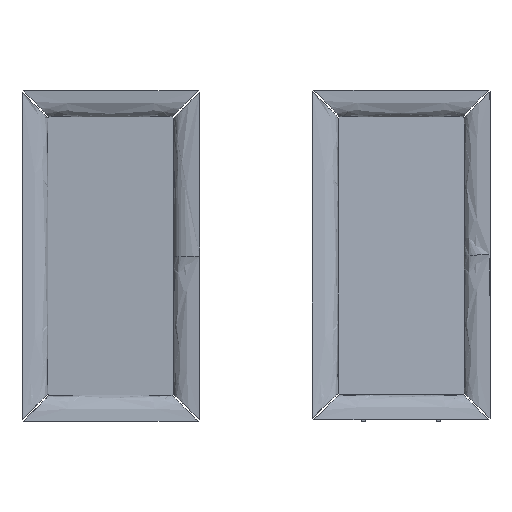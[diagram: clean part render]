
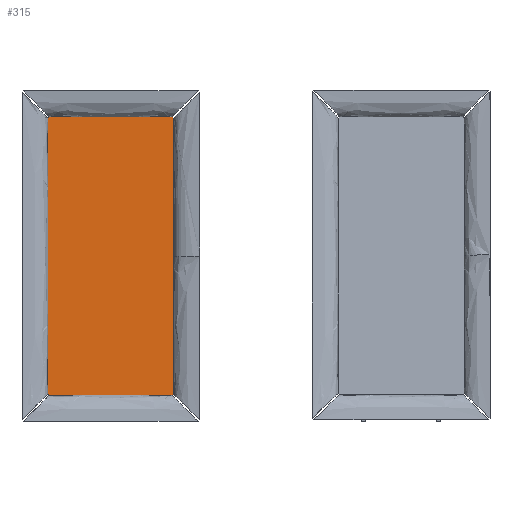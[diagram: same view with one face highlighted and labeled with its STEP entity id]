
A CAD part, front view. The second image highlights one B-rep face of the part: STEP entity #315.
In plain terms, the highlighted planar face has unit normal (0, -1, 0).
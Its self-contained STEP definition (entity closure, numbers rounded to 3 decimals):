
#315=ADVANCED_FACE('',(#488),#2553,.T.);
#488=FACE_OUTER_BOUND('',#663,.T.);
#663=EDGE_LOOP('',(#1421,#1422,#1423,#1424,#1425,#1426,#1427,#1428));
#1421=ORIENTED_EDGE('',*,*,#1828,.T.);
#1422=ORIENTED_EDGE('',*,*,#1842,.T.);
#1423=ORIENTED_EDGE('',*,*,#1841,.T.);
#1424=ORIENTED_EDGE('',*,*,#1840,.T.);
#1425=ORIENTED_EDGE('',*,*,#1839,.T.);
#1426=ORIENTED_EDGE('',*,*,#1838,.T.);
#1427=ORIENTED_EDGE('',*,*,#1837,.T.);
#1428=ORIENTED_EDGE('',*,*,#1836,.T.);
#1828=EDGE_CURVE('',#2474,#2488,#2221,.T.);
#1836=EDGE_CURVE('',#2482,#2474,#2229,.T.);
#1837=EDGE_CURVE('',#2483,#2482,#2230,.T.);
#1838=EDGE_CURVE('',#2484,#2483,#2231,.T.);
#1839=EDGE_CURVE('',#2485,#2484,#2232,.T.);
#1840=EDGE_CURVE('',#2486,#2485,#2233,.T.);
#1841=EDGE_CURVE('',#2487,#2486,#2234,.T.);
#1842=EDGE_CURVE('',#2488,#2487,#2235,.T.);
#2221=B_SPLINE_CURVE_WITH_KNOTS('',1,(#8348,#8349),.UNSPECIFIED.,.F.,.F.,
(2,2),(785.656,786.858),.UNSPECIFIED.);
#2229=B_SPLINE_CURVE_WITH_KNOTS('',1,(#8364,#8365),.UNSPECIFIED.,.F.,.F.,
(2,2),(1187.365,1259.665),.UNSPECIFIED.);
#2230=B_SPLINE_CURVE_WITH_KNOTS('',1,(#8366,#8367),.UNSPECIFIED.,.F.,.F.,
(2,2),(1186.162,1187.365),.UNSPECIFIED.);
#2231=B_SPLINE_CURVE_WITH_KNOTS('',1,(#8368,#8369),.UNSPECIFIED.,.F.,.F.,
(2,2),(1023.862,1186.162),.UNSPECIFIED.);
#2232=B_SPLINE_CURVE_WITH_KNOTS('',1,(#8370,#8371),.UNSPECIFIED.,.F.,.F.,
(2,2),(1022.66,1023.862),.UNSPECIFIED.);
#2233=B_SPLINE_CURVE_WITH_KNOTS('',1,(#8372,#8373),.UNSPECIFIED.,.F.,.F.,
(2,2),(950.36,1022.66),.UNSPECIFIED.);
#2234=B_SPLINE_CURVE_WITH_KNOTS('',1,(#8374,#8375),.UNSPECIFIED.,.F.,.F.,
(2,2),(949.158,950.36),.UNSPECIFIED.);
#2235=B_SPLINE_CURVE_WITH_KNOTS('',1,(#8376,#8377),.UNSPECIFIED.,.F.,.F.,
(2,2),(786.858,949.158),.UNSPECIFIED.);
#2474=VERTEX_POINT('',#8329);
#2482=VERTEX_POINT('',#8337);
#2483=VERTEX_POINT('',#8338);
#2484=VERTEX_POINT('',#8339);
#2485=VERTEX_POINT('',#8340);
#2486=VERTEX_POINT('',#8341);
#2487=VERTEX_POINT('',#8342);
#2488=VERTEX_POINT('',#8343);
#2553=PLANE('',#2723);
#2723=AXIS2_PLACEMENT_3D('',#8320,#2799,$);
#2799=DIRECTION('',(0.,-1.,0.));
#8320=CARTESIAN_POINT('',(0.,-181.925,171.393));
#8329=CARTESIAN_POINT('',(8.5,-181.925,1811.393));
#8337=CARTESIAN_POINT('',(731.5,-181.925,1811.393));
#8338=CARTESIAN_POINT('',(740.,-181.925,1802.893));
#8339=CARTESIAN_POINT('',(740.,-181.925,179.893));
#8340=CARTESIAN_POINT('',(731.5,-181.925,171.393));
#8341=CARTESIAN_POINT('',(8.5,-181.925,171.393));
#8342=CARTESIAN_POINT('',(0.,-181.925,179.893));
#8343=CARTESIAN_POINT('',(0.,-181.925,1802.893));
#8348=CARTESIAN_POINT('',(8.5,-181.925,1811.393));
#8349=CARTESIAN_POINT('',(0.,-181.925,1802.893));
#8364=CARTESIAN_POINT('',(731.5,-181.925,1811.393));
#8365=CARTESIAN_POINT('',(8.5,-181.925,1811.393));
#8366=CARTESIAN_POINT('',(740.,-181.925,1802.893));
#8367=CARTESIAN_POINT('',(731.5,-181.925,1811.393));
#8368=CARTESIAN_POINT('',(740.,-181.925,179.893));
#8369=CARTESIAN_POINT('',(740.,-181.925,1802.893));
#8370=CARTESIAN_POINT('',(731.5,-181.925,171.393));
#8371=CARTESIAN_POINT('',(740.,-181.925,179.893));
#8372=CARTESIAN_POINT('',(8.5,-181.925,171.393));
#8373=CARTESIAN_POINT('',(731.5,-181.925,171.393));
#8374=CARTESIAN_POINT('',(0.,-181.925,179.893));
#8375=CARTESIAN_POINT('',(8.5,-181.925,171.393));
#8376=CARTESIAN_POINT('',(0.,-181.925,1802.893));
#8377=CARTESIAN_POINT('',(0.,-181.925,179.893));
